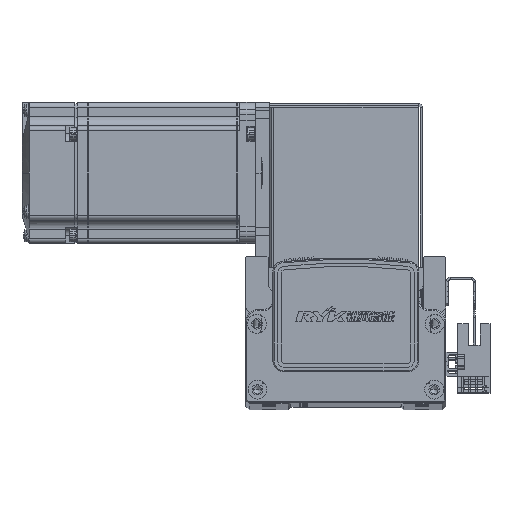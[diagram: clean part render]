
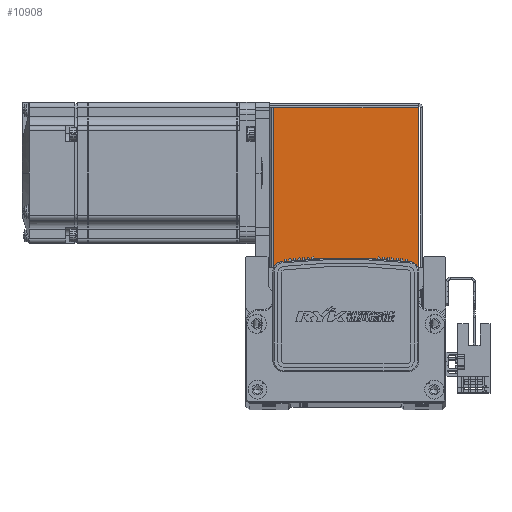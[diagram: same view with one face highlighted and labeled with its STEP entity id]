
A CAD part, top view. The second image highlights one B-rep face of the part: STEP entity #10908.
In plain terms, the highlighted planar face has unit normal (0, 0, 1).
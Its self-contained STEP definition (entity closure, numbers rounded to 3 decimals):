
#3302 = CARTESIAN_POINT ( 'NONE',  ( 0., 0., 35. ) ) ;
#3351 = PLANE ( 'NONE',  #44900 ) ;
#3352 = DIRECTION ( 'NONE',  ( 0., 0., -1. ) ) ;
#3353 = DIRECTION ( 'NONE',  ( -1., 0., 0. ) ) ;
#10908 = ADVANCED_FACE ( 'NONE', ( #57540 ), #3351, .F. ) ;
#23863 = EDGE_CURVE ( 'NONE', #61436, #61459, #31955, .T. ) ;
#24843 = EDGE_CURVE ( 'NONE', #61478, #61446, #46378, .T. ) ;
#24858 = EDGE_CURVE ( 'NONE', #61446, #61459, #46480, .T. ) ;
#24874 = EDGE_CURVE ( 'NONE', #61478, #61436, #46492, .T. ) ;
#31933 = VECTOR ( 'NONE', #41190, 1000. ) ;
#31955 = LINE ( 'NONE', #41155, #31933 ) ;
#41155 = CARTESIAN_POINT ( 'NONE',  ( 0., 68.5, 35. ) ) ;
#41190 = DIRECTION ( 'NONE',  ( -1., 0., 0. ) ) ;
#41971 = CARTESIAN_POINT ( 'NONE',  ( -32.5, 0.737, 35. ) ) ;
#41975 = DIRECTION ( 'NONE',  ( -1., 0., 0. ) ) ;
#42211 = CARTESIAN_POINT ( 'NONE',  ( -30.793, 0., 35. ) ) ;
#42286 = DIRECTION ( 'NONE',  ( 0., 1., 0. ) ) ;
#42319 = CARTESIAN_POINT ( 'NONE',  ( 30.763, 0.737, 35. ) ) ;
#42344 = DIRECTION ( 'NONE',  ( 0., 1., 0. ) ) ;
#44128 = EDGE_LOOP ( 'NONE', ( #53481, #53443, #53448, #53494 ) ) ;
#44900 = AXIS2_PLACEMENT_3D ( 'NONE', #3302, #3352, #3353 ) ;
#46357 = VECTOR ( 'NONE', #41975, 1000. ) ;
#46378 = LINE ( 'NONE', #41971, #46357 ) ;
#46445 = VECTOR ( 'NONE', #42286, 1000. ) ;
#46480 = LINE ( 'NONE', #42211, #46445 ) ;
#46492 = LINE ( 'NONE', #42319, #46497 ) ;
#46497 = VECTOR ( 'NONE', #42344, 1000. ) ;
#53443 = ORIENTED_EDGE ( 'NONE', *, *, #23863, .T. ) ;
#53448 = ORIENTED_EDGE ( 'NONE', *, *, #24858, .F. ) ;
#53481 = ORIENTED_EDGE ( 'NONE', *, *, #24874, .T. ) ;
#53494 = ORIENTED_EDGE ( 'NONE', *, *, #24843, .F. ) ;
#57540 = FACE_OUTER_BOUND ( 'NONE', #44128, .T. ) ;
#57780 = CARTESIAN_POINT ( 'NONE',  ( -30.793, 0.737, 35. ) ) ;
#57843 = CARTESIAN_POINT ( 'NONE',  ( 30.763, 0.737, 35. ) ) ;
#57862 = CARTESIAN_POINT ( 'NONE',  ( 30.763, 68.5, 35. ) ) ;
#57884 = CARTESIAN_POINT ( 'NONE',  ( -30.793, 68.5, 35. ) ) ;
#61436 = VERTEX_POINT ( 'NONE', #57862 ) ;
#61446 = VERTEX_POINT ( 'NONE', #57780 ) ;
#61459 = VERTEX_POINT ( 'NONE', #57884 ) ;
#61478 = VERTEX_POINT ( 'NONE', #57843 ) ;
